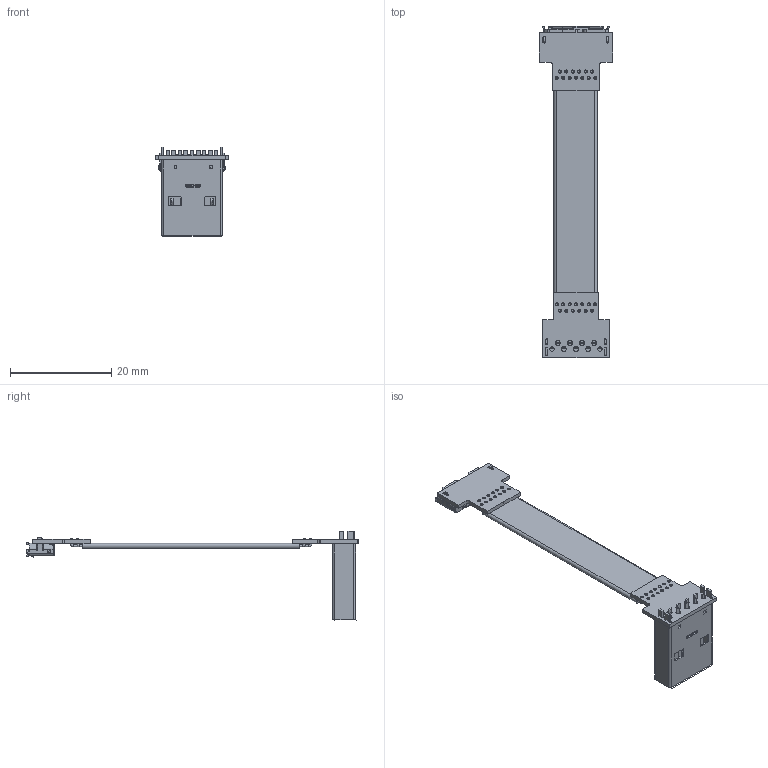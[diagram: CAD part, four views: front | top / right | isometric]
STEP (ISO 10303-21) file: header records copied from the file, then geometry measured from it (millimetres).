
FILE_DESCRIPTION(('Open CASCADE Model'),'2;1');
FILE_NAME('Open CASCADE Shape Model','2022-05-04T14:46:18',('Author'),( 'Open CASCADE'),'Open CASCADE STEP processor 6.8','Open CASCADE 6.8' ,'Unknown');
FILE_SCHEMA(('AUTOMOTIVE_DESIGN { 1 0 10303 214 1 1 1 1 }'));
Length unit declared in the file: millimetre
Products named in the file (42): PCB; Board; Open CASCADE STEP translator 6.8 1.1.1; Designator46; USB_公头_20211210（2）; Designator63; microusb3_female; Free-Models; cable13-US2A
Assembly tree (41 placements, depth 3):
  PCB
    Board
      Open CASCADE STEP translator 6.8 1.1.1
    Designator46
      USB_公头_20211210（2）
      USB_公头_20211210（2）
      USB_公头_20211210（2）
      USB_公头_20211210（2）
      USB_公头_20211210（2）
      USB_公头_20211210（2）
      USB_公头_20211210（2）
      USB_公头_20211210（2）
    Designator63
      microusb3_female
    Free-Models
      cable13-US2A
      cable13-US2A
      cable13-US2A
      cable13-US2A
      cable13-US2A
      cable13-US2A
      cable13-US2A
      cable13-US2A
      cable13-US2A
      cable13-US2A
      cable13-US2A
      cable13-US2A
      cable13-US2A
      cable13-US2A
      cable13-US2A
      cable13-US2A
      cable13-US2A
      cable13-US2A
      cable13-US2A
      cable13-US2A
      cable13-US2A
      cable13-US2A
      cable13-US2A
      cable13-US2A
      cable13-US2A
      cable13-US2A
      cable13-US2A
Bounding box: 14.48 x 65.68 x 17.7 mm (x, y, z)
Volume: 1157.7 mm3; surface area: 4281.1 mm2
Topology: 38 solids, 38 shells, 1054 faces, 2747 edges, 1779 vertices
Faces by surface type: plane 663, cylinder 350, torus 30, sphere 8, cone 3
Full cylindrical faces by diameter (mm): 0.4 x65, 0.6 x26, 0.85 x2, 0.95 x7
Entity records: 37328 total; most frequent: CARTESIAN_POINT 6085, DIRECTION 5511, ORIENTED_EDGE 5472, EDGE_CURVE 2736, LINE 1903, VECTOR 1903, AXIS2_PLACEMENT_3D 1804, VERTEX_POINT 1779
